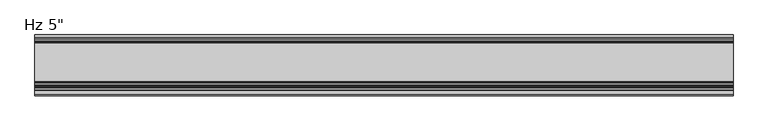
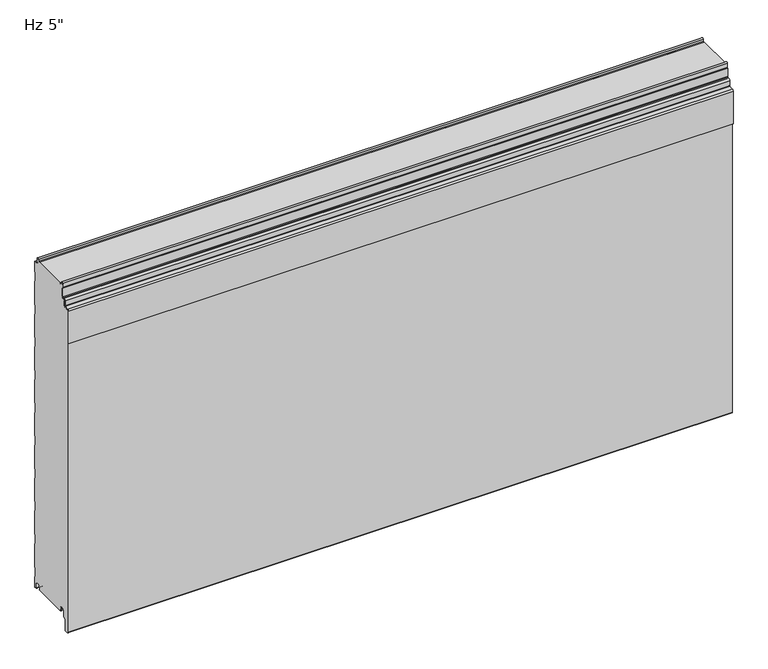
"""IFC4 building model written with IfcOpenShell, lengths in millimetres: plate geometry."""

from ifc_helpers import new_model, si_unit, frame, origin, place, context, project, spatial, polyline, circle_curve, source, transform, mapped, element, save
from ifc_brep_helpers import plane_surface, cylinder_surface, revolved_surface, advanced_brep


def plate_6f7920e9(model_context):
    return source(origin(), model_context, "Body", "AdvancedBrep", [
        advanced_brep(
        [(730.0, -105.9008679, 735.9534183), (730.0, -105.9008679, 754.6986183), (730.0, -107.4248679, 754.6986183), (730.0, -107.4248679, 735.9534183), (730.0, -108.9488679, 734.4294183), (730.0, -112.0476679, 734.4294183), (730.0, -115.5020679, 730.9750183), (730.0, -115.5020679, 719.762461), (730.0, -116.1976552, 719.0033606), (730.0, -125.7416507, 717.808533), (730.0, -128.524, 714.7721316), (730.0, -128.5360323, 639.2048183), (730.0, -127.0, 639.2048183), (730.0, -127.0, 714.7721316), (730.0, -125.6088254, 716.2903323), (730.0, -116.0648299, 717.4851599), (730.0, -113.9780679, 719.762461), (730.0, -113.9780679, 730.9750183), (730.0, -112.0476679, 732.9054183), (730.0, -108.9488679, 732.9054183), (-730.0, -105.9008679, 735.9534183), (-730.0, -108.9488679, 732.9054183), (-730.0, -112.0476679, 732.9054183), (-730.0, -113.9780679, 730.9750183), (-730.0, -113.9780679, 719.762461), (-730.0, -116.0648299, 717.4851599), (-730.0, -125.6088254, 716.2903323), (-730.0, -127.0, 714.7721316), (-730.0, -127.0, 639.2048183), (-730.0, -128.5360323, 639.2048183), (-730.0, -128.5360323, 714.7721316), (-730.0, -125.7416507, 717.808533), (-730.0, -116.1976552, 719.0033606), (-730.0, -115.5020679, 719.762461), (-730.0, -115.5020679, 730.9750183), (-730.0, -112.0476679, 734.4294183), (-730.0, -108.9488679, 734.4294183), (-730.0, -107.4248679, 735.9534183), (-730.0, -107.4248679, 754.6986183), (-730.0, -105.9008679, 754.6986183)],
        [
            (0, 1),
            (1, 2),
            (2, 3),
            (3, 4, circle_curve(frame((730.0, -108.9488679, 735.9534183), z_axis=(-1.0, 0.0, 0.0), x_axis=(0.0, 1.0, 0.0)), 1.524)),
            (4, 5),
            (5, 6, circle_curve(frame((730.0, -112.0476679, 730.9750183), z_axis=(1.0, 0.0, 0.0), x_axis=(0.0, 1.0, 0.0)), 3.4544)),
            (6, 7),
            (7, 8, circle_curve(frame((730.0, -116.2640679, 719.762461), z_axis=(-1.0, 0.0, 0.0), x_axis=(0.0, 1.0, 0.0)), 0.762)),
            (8, 9),
            (9, 10, circle_curve(frame((730.0, -125.476, 714.7721316), z_axis=(1.0, 0.0, 0.0), x_axis=(0.0, 1.0, 0.0)), 3.048)),
            (10, 11),
            (11, 12),
            (12, 13),
            (13, 14, circle_curve(frame((730.0, -125.476, 714.7721316), z_axis=(-1.0, 0.0, 0.0), x_axis=(0.0, 1.0, 0.0)), 1.524)),
            (14, 15),
            (15, 16, circle_curve(frame((730.0, -116.2640679, 719.762461), z_axis=(1.0, 0.0, 0.0), x_axis=(0.0, 1.0, 0.0)), 2.286)),
            (16, 17),
            (17, 18, circle_curve(frame((730.0, -112.0476679, 730.9750183), z_axis=(-1.0, 0.0, 0.0), x_axis=(0.0, 1.0, 0.0)), 1.9304)),
            (18, 19),
            (19, 0, circle_curve(frame((730.0, -108.9488679, 735.9534183), z_axis=(1.0, 0.0, 0.0), x_axis=(0.0, 1.0, 0.0)), 3.048)),
            (20, 21, circle_curve(frame((-730.0, -108.9488679, 735.9534183), z_axis=(-1.0, 0.0, 0.0), x_axis=(0.0, 1.0, 0.0)), 3.048)),
            (21, 22),
            (22, 23, circle_curve(frame((-730.0, -112.0476679, 730.9750183), z_axis=(1.0, 0.0, 0.0), x_axis=(0.0, 1.0, 0.0)), 1.9304)),
            (23, 24),
            (24, 25, circle_curve(frame((-730.0, -116.2640679, 719.762461), z_axis=(-1.0, 0.0, 0.0), x_axis=(0.0, 1.0, 0.0)), 2.286)),
            (25, 26),
            (26, 27, circle_curve(frame((-730.0, -125.476, 714.7721316), z_axis=(1.0, 0.0, 0.0), x_axis=(0.0, 1.0, 0.0)), 1.524)),
            (27, 28),
            (28, 29),
            (29, 30),
            (30, 31, circle_curve(frame((-730.0, -125.476, 714.7721316), z_axis=(-1.0, 0.0, 0.0), x_axis=(0.0, 1.0, 0.0)), 3.048)),
            (31, 32),
            (32, 33, circle_curve(frame((-730.0, -116.2640679, 719.762461), z_axis=(1.0, 0.0, 0.0), x_axis=(0.0, 1.0, 0.0)), 0.762)),
            (33, 34),
            (34, 35, circle_curve(frame((-730.0, -112.0476679, 730.9750183), z_axis=(-1.0, 0.0, 0.0), x_axis=(0.0, 1.0, 0.0)), 3.4544)),
            (35, 36),
            (36, 37, circle_curve(frame((-730.0, -108.9488679, 735.9534183), z_axis=(1.0, 0.0, 0.0), x_axis=(0.0, 1.0, 0.0)), 1.524)),
            (37, 38),
            (38, 39),
            (39, 20),
            (2, 38),
            (37, 3),
            (15, 25),
            (24, 16),
            (7, 33),
            (32, 8),
            (5, 35),
            (34, 6),
            (1, 39),
            (36, 4),
            (9, 31),
            (30, 10),
            (13, 27),
            (26, 14),
            (0, 20),
            (12, 28),
            (29, 11),
            (23, 17),
            (18, 22),
            (21, 19),
        ],
        [
            plane_surface(frame((730.0, -127.0, 754.6986183), z_axis=(1.0, 0.0, 0.0), x_axis=(0.0, 0.0, -1.0))),
            plane_surface(frame((-730.0, -127.0, 754.6986183), z_axis=(-1.0, 0.0, 0.0), x_axis=(0.0, 0.0, -1.0))),
            plane_surface(frame((730.0, -107.4248679, 735.9534183), z_axis=(0.0, -1.0, 0.0), x_axis=(-1.0, 0.0, 0.0))),
            cylinder_surface(frame((730.0, -116.2640679, 719.762461), z_axis=(1.0, 0.0, 0.0), x_axis=(0.0, 1.0, 0.0)), 2.286),
            revolved_surface(polyline([(-730.0, -115.5020679, 719.762461), (730.0, -115.5020679, 719.762461)]), (730.0, -116.2640679, 719.762461), (-1.0, 0.0, 0.0)),
            cylinder_surface(frame((730.0, -112.0476679, 730.9750183), z_axis=(1.0, 0.0, 0.0), x_axis=(0.0, 1.0, 0.0)), 3.4544),
            plane_surface(frame((730.0, -107.4248679, 754.6986183), z_axis=(0.0, 0.0, 1.0), x_axis=(-1.0, 0.0, 0.0))),
            revolved_surface(polyline([(-730.0, -107.4248679, 735.9534183), (730.0, -107.4248679, 735.9534183)]), (730.0, -108.9488679, 735.9534183), (-1.0, 0.0, 0.0)),
            cylinder_surface(frame((730.0, -125.476, 714.7721316), z_axis=(1.0, 0.0, 0.0), x_axis=(0.0, 1.0, 0.0)), 3.048),
            revolved_surface(polyline([(-730.0, -123.952, 714.7721316), (730.0, -123.952, 714.7721316)]), (730.0, -125.476, 714.7721316), (-1.0, 0.0, 0.0)),
            plane_surface(frame((730.0, -105.9008679, 754.6986183), z_axis=(0.0, 1.0, 0.0), x_axis=(-1.0, 0.0, 0.0))),
            plane_surface(frame((730.0, -116.0648299, 717.4851599), z_axis=(0.0, 0.12422187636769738, -0.9922544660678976), x_axis=(-1.0, 0.0, 0.0))),
            plane_surface(frame((730.0, -127.0, 714.7721316), z_axis=(0.0, 1.0, 0.0), x_axis=(-1.0, 0.0, 0.0))),
            plane_surface(frame((730.0, -125.7416507, 717.808533), z_axis=(0.0, -0.12422187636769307, 0.9922544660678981), x_axis=(-1.0, 0.0, 0.0))),
            plane_surface(frame((730.0, -112.0476679, 734.4294183), z_axis=(0.0, 0.0, 1.0), x_axis=(-1.0, 0.0, 0.0))),
            plane_surface(frame((730.0, -128.5360323, 639.2048183), z_axis=(0.0, -1.0, 0.0), x_axis=(-1.0, 0.0, 0.0))),
            plane_surface(frame((730.0, -127.0, 639.2048183), z_axis=(0.0, 0.0, -1.0), x_axis=(-1.0, 0.0, 0.0))),
            plane_surface(frame((730.0, -113.9780679, 730.9750183), z_axis=(0.0, 1.0, 0.0), x_axis=(-1.0, 0.0, 0.0))),
            plane_surface(frame((730.0, -108.9488679, 732.9054183), z_axis=(0.0, 0.0, -1.0), x_axis=(-1.0, 0.0, 0.0))),
            plane_surface(frame((730.0, -115.5020679, 719.762461), z_axis=(0.0, -1.0, 0.0), x_axis=(-1.0, 0.0, 0.0))),
            revolved_surface(polyline([(-730.0, -110.11726789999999, 730.9750183), (730.0, -110.11726789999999, 730.9750183)]), (730.0, -112.0476679, 730.9750183), (-1.0, 0.0, 0.0)),
            cylinder_surface(frame((730.0, -108.9488679, 735.9534183), z_axis=(1.0, 0.0, 0.0), x_axis=(0.0, 1.0, 0.0)), 3.048),
        ],
        [
            (0, [[1, 2, 3, 4, 5, 6, 7, 8, 9, 10, 11, 12, 13, 14, 15, 16, 17, 18, 19, 20]]),
            (1, [[21, 22, 23, 24, 25, 26, 27, 28, 29, 30, 31, 32, 33, 34, 35, 36, 37, 38, 39, 40]]),
            (2, [[41, -38, 42, -3]]),
            (3, [[43, -25, 44, -16]]),
            (4, [[45, -33, 46, -8]]),
            (5, [[47, -35, 48, -6]]),
            (6, [[49, -39, -41, -2]]),
            (7, [[-42, -37, 50, -4]]),
            (8, [[51, -31, 52, -10]]),
            (9, [[53, -27, 54, -14]]),
            (10, [[55, -40, -49, -1]]),
            (11, [[-54, -26, -43, -15]]),
            (12, [[56, -28, -53, -13]]),
            (13, [[-46, -32, -51, -9]]),
            (14, [[-50, -36, -47, -5]]),
            (15, [[-52, -30, 57, -11]]),
            (16, [[-57, -29, -56, -12]]),
            (17, [[-44, -24, 58, -17]]),
            (18, [[59, -22, 60, -19]]),
            (19, [[-48, -34, -45, -7]]),
            (20, [[-58, -23, -59, -18]]),
            (21, [[-60, -21, -55, -20]]),
        ],
    ),
        advanced_brep(
        [(-730.0, -98.670875, 1.0316999), (-730.0, -97.5014003, 2.2328239), (-730.0, -97.5014003, 5.9912173), (-730.0, -98.8998791, 5.9912173), (-730.0, -98.8998791, 8.6903283), (-730.0, -102.2498744, 12.0403236), (-730.0, -106.6498656, 12.0403236), (-730.0, -109.9998609, 8.6903283), (-730.0, -109.9998609, -3.1205608), (-730.0, -110.4977778, -4.3226385), (-730.0, -115.9998489, -9.8247096), (-730.0, -115.9998489, -31.9198392), (-730.0, -118.2184509, -34.5765709), (-730.0, -123.2002718, -35.0125699), (-730.0, -125.9945967, -32.4521176), (-730.0, -126.0, 713.515622), (-730.0, -124.2149259, 715.4669057), (-730.0, -115.7539491, 716.221161), (-730.0, -112.9906462, 719.3653654), (-730.0, -112.9906462, 729.4583308), (-730.0, -112.0392375, 730.4097394), (-730.0, -108.8955822, 730.4097394), (-730.0, -104.8961292, 734.4091924), (-730.0, -104.8961292, 755.5895515), (-730.0, -106.876977, 756.7334028), (-730.0, -106.5217167, 765.706811), (-730.0, -102.3211391, 765.7037148), (-730.0, -102.0767242, 761.6977997), (-730.0, -100.2819116, 759.9686884), (-730.0, -97.497365, 759.9686884), (-730.0, -97.497365, 760.9686884), (-730.0, -99.084865, 760.9686884), (-730.0, -98.0535534, 762.0), (-730.0, -18.6184525, 762.0), (-730.0, -17.5871409, 760.9686884), (-730.0, -19.0015288, 760.9686884), (-730.0, -19.0015288, 759.9686884), (-730.0, -16.6743462, 759.9686884), (-730.0, -14.9256429, 761.6513685), (-730.0, -14.7059822, 765.7921924), (-730.0, -10.4046442, 765.7931719), (-730.0, -9.9974365, 757.3016499), (-730.0, -6.0026007, 753.4787013), (-730.0, -1.0, 753.4787013), (-730.0, -1.0, 728.9790963), (-730.0, -2.2002307, 727.5934634), (-730.0, -2.2002307, 708.2182971), (-730.0, -1.0, 706.8326641), (-730.0, -1.0, 652.7792487), (-730.0, -2.2002307, 651.3936158), (-730.0, -2.2002307, 632.0184495), (-730.0, -1.0, 630.6328165), (-730.0, -1.0, 576.5794011), (-730.0, -2.2002307, 575.1937682), (-730.0, -2.2002307, 555.8186019), (-730.0, -1.0, 554.4329689), (-730.0, -1.0, 500.3795535), (-730.0, -2.2002307, 498.9939206), (-730.0, -2.2002307, 479.6187543), (-730.0, -1.0, 478.2331213), (-730.0, -1.0, 424.1797059), (-730.0, -2.2002307, 422.794073), (-730.0, -2.2002307, 403.4189067), (-730.0, -1.0, 402.0332737), (-730.0, -1.0, 347.9798583), (-730.0, -2.2002307, 346.5942254), (-730.0, -2.2002307, 327.2190591), (-730.0, -1.0, 325.8334261), (-730.0, -1.0, 271.7800107), (-730.0, -2.2002307, 270.3943778), (-730.0, -2.2002307, 251.0192115), (-730.0, -1.0, 249.6335785), (-730.0, -1.0, 195.5801631), (-730.0, -2.2002307, 194.1945302), (-730.0, -2.2002307, 174.8193639), (-730.0, -1.0, 173.4337309), (-730.0, -1.0, 119.3803155), (-730.0, -2.2002307, 117.9946826), (-730.0, -2.2002307, 98.6195163), (-730.0, -1.0, 97.2338833), (-730.0, -1.0, 43.1804679), (-730.0, -2.2002307, 41.794835), (-730.0, -2.2002307, 22.4196687), (-730.0, -0.9999916, 21.034026), (-730.0, -0.9999916, -3.4662506), (-730.0, -5.2315389, -3.4662506), (-730.0, -7.0015331, -1.6962564), (-730.0, -7.0015331, 8.7237222), (-730.0, -10.301529, 12.023718), (-730.0, -14.7015202, 12.023718), (-730.0, -18.0015159, 8.7237223), (-730.0, -18.0015159, 6.0315125), (-730.0, -19.0015105, 6.0315125), (-730.0, -19.0015105, 2.0313089), (-730.0, -18.0015192, 1.0313117), (-730.0, -19.0328308, 0.0), (-730.0, -97.6391751, 0.0), (730.0, -98.670875, 1.0316999), (730.0, -97.6391751, 0.0), (730.0, -19.0328308, 0.0), (730.0, -18.0015192, 1.0313117), (730.0, -19.0015105, 2.0313089), (730.0, -19.0015105, 6.0315125), (730.0, -18.0015159, 6.0315125), (730.0, -18.0015159, 8.7237223), (730.0, -14.7015202, 12.023718), (730.0, -10.301529, 12.023718), (730.0, -7.0015331, 8.7237222), (730.0, -7.0015331, -1.6962564), (730.0, -5.2315389, -3.4662506), (730.0, -0.9999916, -3.4662506), (730.0, -0.9999916, 21.034026), (730.0, -2.2002307, 22.4196687), (730.0, -2.2002307, 41.794835), (730.0, -1.0, 43.1804679), (730.0, -1.0, 97.2338833), (730.0, -2.2002307, 98.6195163), (730.0, -2.2002307, 117.9946826), (730.0, -1.0, 119.3803155), (730.0, -1.0, 173.4337309), (730.0, -2.2002307, 174.8193639), (730.0, -2.2002307, 194.1945302), (730.0, -1.0, 195.5801631), (730.0, -1.0, 249.6335785), (730.0, -2.2002307, 251.0192115), (730.0, -2.2002307, 270.3943778), (730.0, -1.0, 271.7800107), (730.0, -1.0, 325.8334261), (730.0, -2.2002307, 327.2190591), (730.0, -2.2002307, 346.5942254), (730.0, -1.0, 347.9798583), (730.0, -1.0, 402.0332737), (730.0, -2.2002307, 403.4189067), (730.0, -2.2002307, 422.794073), (730.0, -1.0, 424.1797059), (730.0, -1.0, 478.2331213), (730.0, -2.2002307, 479.6187543), (730.0, -2.2002307, 498.9939206), (730.0, -1.0, 500.3795535), (730.0, -1.0, 554.4329689), (730.0, -2.2002307, 555.8186019), (730.0, -2.2002307, 575.1937682), (730.0, -1.0, 576.5794011), (730.0, -1.0, 630.6328165), (730.0, -2.2002307, 632.0184495), (730.0, -2.2002307, 651.3936158), (730.0, -1.0, 652.7792487), (730.0, -1.0, 706.8326641), (730.0, -2.2002307, 708.2182971), (730.0, -2.2002307, 727.5934634), (730.0, -1.0, 728.9790963), (730.0, -1.0, 753.4787013), (730.0, -6.0026007, 753.4787013), (730.0, -9.9974365, 757.3016499), (730.0, -10.4046442, 765.7931719), (730.0, -14.7059822, 765.7921924), (730.0, -14.9256429, 761.6513685), (730.0, -16.6743462, 759.9686884), (730.0, -19.0015288, 759.9686884), (730.0, -19.0015288, 760.9686884), (730.0, -17.5871409, 760.9686884), (730.0, -18.6184525, 762.0), (730.0, -98.0535534, 762.0), (730.0, -99.084865, 760.9686884), (730.0, -97.497365, 760.9686884), (730.0, -97.497365, 759.9686884), (730.0, -100.2819116, 759.9686884), (730.0, -102.0767242, 761.6977997), (730.0, -102.3211391, 765.7037148), (730.0, -106.5217167, 765.706811), (730.0, -106.876977, 756.7334028), (730.0, -104.8961292, 755.5895515), (730.0, -104.8961292, 734.4091924), (730.0, -108.8955822, 730.4097394), (730.0, -112.0392375, 730.4097394), (730.0, -112.9906462, 729.4583308), (730.0, -112.9906462, 719.3653654), (730.0, -115.7539491, 716.221161), (730.0, -124.2149259, 715.4669057), (730.0, -126.0, 713.515622), (730.0, -126.0, -32.4521176), (730.0, -123.2002718, -35.0125699), (730.0, -118.2184509, -34.5765709), (730.0, -115.9998489, -31.9198392), (730.0, -115.9998489, -9.8247096), (730.0, -110.4977778, -4.3226385), (730.0, -109.9998609, -3.1205608), (730.0, -109.9998609, 8.6903283), (730.0, -106.6498656, 12.0403236), (730.0, -102.2498744, 12.0403236), (730.0, -98.8998791, 8.6903283), (730.0, -98.8998791, 5.9912173), (730.0, -97.5014003, 5.9912173), (730.0, -97.5014003, 2.2328239)],
        [
            (0, 1, circle_curve(frame((-730.0, -98.7013969, 2.2313092), z_axis=(1.0, 0.0, 0.0), x_axis=(0.0, 0.0, -1.0)), 1.1999976)),
            (1, 2),
            (2, 3),
            (3, 4),
            (4, 5, circle_curve(frame((-730.0, -102.2498744, 8.6903283), z_axis=(1.0, 0.0, 0.0), x_axis=(0.0, 0.0, -1.0)), 3.3499953)),
            (5, 6),
            (6, 7, circle_curve(frame((-730.0, -106.6498656, 8.6903283), z_axis=(1.0, 0.0, 0.0), x_axis=(0.0, 0.0, -1.0)), 3.3499953)),
            (7, 8),
            (8, 9, circle_curve(frame((-730.0, -111.6998555, -3.1205608), z_axis=(-1.0, 0.0, 0.0), x_axis=(0.0, 0.0, -1.0)), 1.6999946)),
            (9, 10),
            (10, 11),
            (11, 12, circle_curve(frame((-730.0, -118.6998415, -31.9198392), z_axis=(-1.0, 0.0, 0.0), x_axis=(0.0, 0.0, -1.0)), 2.6999926)),
            (12, 13),
            (13, 14, circle_curve(frame((-730.0, -123.4243575, -32.4521176), z_axis=(-1.0, 0.0, 0.0), x_axis=(0.0, 0.0, -1.0)), 2.5702393)),
            (14, 15),
            (15, 16, circle_curve(frame((-730.0, -124.0409784, 713.515622), z_axis=(-1.0, 0.0, 0.0), x_axis=(0.0, 0.0, -1.0)), 1.9590216)),
            (16, 17),
            (17, 18, circle_curve(frame((-730.0, -116.0180321, 719.2396267), z_axis=(1.0, 0.0, 0.0), x_axis=(0.0, 0.0, -1.0)), 3.0299959)),
            (18, 19),
            (19, 20, circle_curve(frame((-730.0, -112.0392375, 729.4583308), z_axis=(-1.0, 0.0, 0.0), x_axis=(0.0, 0.0, -1.0)), 0.9514087)),
            (20, 21),
            (21, 22, circle_curve(frame((-730.0, -108.8955822, 734.4091924), z_axis=(1.0, 0.0, 0.0), x_axis=(0.0, 0.0, -1.0)), 3.9994529)),
            (22, 23),
            (23, 24),
            (24, 25),
            (25, 26, circle_curve(frame((-730.0, -104.421488, 765.6236622), z_axis=(-1.0, 0.0, 0.0), x_axis=(0.0, 0.0, -1.0)), 2.1018739)),
            (26, 27),
            (27, 28, circle_curve(frame((-730.0, -100.2383506, 761.8099653), z_axis=(1.0, 0.0, 0.0), x_axis=(0.0, 0.0, -1.0)), 1.8417922)),
            (28, 29),
            (29, 30),
            (30, 31),
            (31, 32),
            (32, 33),
            (33, 34),
            (34, 35),
            (35, 36),
            (36, 37),
            (37, 38, circle_curve(frame((-730.0, -16.6743462, 761.7186869), z_axis=(1.0, 0.0, 0.0), x_axis=(0.0, 0.0, 1.0)), 1.7499985)),
            (38, 39),
            (39, 40, circle_curve(frame((-730.0, -12.5552871, 765.6781032), z_axis=(-1.0, 0.0, 0.0), x_axis=(0.0, 0.0, 1.0)), 2.153719)),
            (40, 41),
            (41, 42, circle_curve(frame((-730.0, -5.9867338, 757.4939817), z_axis=(1.0, 0.0, 0.0), x_axis=(0.0, 0.0, 1.0)), 4.0153117)),
            (42, 43),
            (43, 44),
            (44, 45),
            (45, 46),
            (46, 47),
            (47, 48),
            (48, 49),
            (49, 50),
            (50, 51),
            (51, 52),
            (52, 53),
            (53, 54),
            (54, 55),
            (55, 56),
            (56, 57),
            (57, 58),
            (58, 59),
            (59, 60),
            (60, 61),
            (61, 62),
            (62, 63),
            (63, 64),
            (64, 65),
            (65, 66),
            (66, 67),
            (67, 68),
            (68, 69),
            (69, 70),
            (70, 71),
            (71, 72),
            (72, 73),
            (73, 74),
            (74, 75),
            (75, 76),
            (76, 77),
            (77, 78),
            (78, 79),
            (79, 80),
            (80, 81),
            (81, 82),
            (82, 83),
            (83, 84),
            (84, 85),
            (85, 86, circle_curve(frame((-730.0, -5.2315389, -1.6962564), z_axis=(-1.0, 0.0, 0.0), x_axis=(0.0, 0.0, 1.0)), 1.7699942)),
            (86, 87),
            (87, 88, circle_curve(frame((-730.0, -10.301529, 8.7237222), z_axis=(1.0, 0.0, 0.0), x_axis=(0.0, 0.0, 1.0)), 3.2999959)),
            (88, 89),
            (89, 90, circle_curve(frame((-730.0, -14.7015202, 8.7237223), z_axis=(1.0, 0.0, 0.0), x_axis=(0.0, 0.0, 1.0)), 3.2999957)),
            (90, 91),
            (91, 92),
            (92, 93),
            (93, 94, circle_curve(frame((-730.0, -18.0015133, 2.0313089), z_axis=(1.0, 0.0, 0.0), x_axis=(0.0, 0.0, 1.0)), 0.9999972)),
            (94, 95),
            (95, 96),
            (96, 0),
            (97, 98),
            (98, 99),
            (99, 100),
            (100, 101, circle_curve(frame((730.0, -18.0015133, 2.0313089), z_axis=(-1.0, 0.0, 0.0), x_axis=(0.0, 0.0, 1.0)), 0.9999972)),
            (101, 102),
            (102, 103),
            (103, 104),
            (104, 105, circle_curve(frame((730.0, -14.7015202, 8.7237223), z_axis=(-1.0, 0.0, 0.0), x_axis=(0.0, 0.0, 1.0)), 3.2999957)),
            (105, 106),
            (106, 107, circle_curve(frame((730.0, -10.301529, 8.7237222), z_axis=(-1.0, 0.0, 0.0), x_axis=(0.0, 0.0, 1.0)), 3.2999959)),
            (107, 108),
            (108, 109, circle_curve(frame((730.0, -5.2315389, -1.6962564), z_axis=(1.0, 0.0, 0.0), x_axis=(0.0, 0.0, 1.0)), 1.7699942)),
            (109, 110),
            (110, 111),
            (111, 112),
            (112, 113),
            (113, 114),
            (114, 115),
            (115, 116),
            (116, 117),
            (117, 118),
            (118, 119),
            (119, 120),
            (120, 121),
            (121, 122),
            (122, 123),
            (123, 124),
            (124, 125),
            (125, 126),
            (126, 127),
            (127, 128),
            (128, 129),
            (129, 130),
            (130, 131),
            (131, 132),
            (132, 133),
            (133, 134),
            (134, 135),
            (135, 136),
            (136, 137),
            (137, 138),
            (138, 139),
            (139, 140),
            (140, 141),
            (141, 142),
            (142, 143),
            (143, 144),
            (144, 145),
            (145, 146),
            (146, 147),
            (147, 148),
            (148, 149),
            (149, 150),
            (150, 151),
            (151, 152),
            (152, 153, circle_curve(frame((730.0, -5.9867338, 757.4939817), z_axis=(-1.0, 0.0, 0.0), x_axis=(0.0, 0.0, 1.0)), 4.0153117)),
            (153, 154),
            (154, 155, circle_curve(frame((730.0, -12.5552871, 765.6781032), z_axis=(1.0, 0.0, 0.0), x_axis=(0.0, 0.0, 1.0)), 2.153719)),
            (155, 156),
            (156, 157, circle_curve(frame((730.0, -16.6743462, 761.7186869), z_axis=(-1.0, 0.0, 0.0), x_axis=(0.0, 0.0, 1.0)), 1.7499985)),
            (157, 158),
            (158, 159),
            (159, 160),
            (160, 161),
            (161, 162),
            (162, 163),
            (163, 164),
            (164, 165),
            (165, 166),
            (166, 167, circle_curve(frame((730.0, -100.2383506, 761.8099653), z_axis=(-1.0, 0.0, 0.0), x_axis=(0.0, 0.0, -1.0)), 1.8417922)),
            (167, 168),
            (168, 169, circle_curve(frame((730.0, -104.421488, 765.6236622), z_axis=(1.0, 0.0, 0.0), x_axis=(0.0, 0.0, -1.0)), 2.1018739)),
            (169, 170),
            (170, 171),
            (171, 172),
            (172, 173, circle_curve(frame((730.0, -108.8955822, 734.4091924), z_axis=(-1.0, 0.0, 0.0), x_axis=(0.0, 0.0, -1.0)), 3.9994529)),
            (173, 174),
            (174, 175, circle_curve(frame((730.0, -112.0392375, 729.4583308), z_axis=(1.0, 0.0, 0.0), x_axis=(0.0, 0.0, -1.0)), 0.9514087)),
            (175, 176),
            (176, 177, circle_curve(frame((730.0, -116.0180321, 719.2396267), z_axis=(-1.0, 0.0, 0.0), x_axis=(0.0, 0.0, -1.0)), 3.0299959)),
            (177, 178),
            (178, 179, circle_curve(frame((730.0, -124.0409784, 713.515622), z_axis=(1.0, 0.0, 0.0), x_axis=(0.0, 0.0, -1.0)), 1.9590216)),
            (179, 180),
            (180, 181, circle_curve(frame((730.0, -123.4243575, -32.4521176), z_axis=(1.0, 0.0, 0.0), x_axis=(0.0, 0.0, -1.0)), 2.5702393)),
            (181, 182),
            (182, 183, circle_curve(frame((730.0, -118.6998415, -31.9198392), z_axis=(1.0, 0.0, 0.0), x_axis=(0.0, 0.0, -1.0)), 2.6999926)),
            (183, 184),
            (184, 185),
            (185, 186, circle_curve(frame((730.0, -111.6998555, -3.1205608), z_axis=(1.0, 0.0, 0.0), x_axis=(0.0, 0.0, -1.0)), 1.6999946)),
            (186, 187),
            (187, 188, circle_curve(frame((730.0, -106.6498656, 8.6903283), z_axis=(-1.0, 0.0, 0.0), x_axis=(0.0, 0.0, -1.0)), 3.3499953)),
            (188, 189),
            (189, 190, circle_curve(frame((730.0, -102.2498744, 8.6903283), z_axis=(-1.0, 0.0, 0.0), x_axis=(0.0, 0.0, -1.0)), 3.3499953)),
            (190, 191),
            (191, 192),
            (192, 193),
            (193, 97, circle_curve(frame((730.0, -98.7013969, 2.2313092), z_axis=(-1.0, 0.0, 0.0), x_axis=(0.0, 0.0, -1.0)), 1.1999976)),
            (96, 98),
            (97, 0),
            (95, 99),
            (32, 162),
            (161, 33),
            (31, 163),
            (30, 164),
            (29, 165),
            (28, 166),
            (27, 167),
            (26, 168),
            (25, 169),
            (24, 170),
            (23, 171),
            (22, 172),
            (21, 173),
            (20, 174),
            (19, 175),
            (18, 176),
            (17, 177),
            (16, 178),
            (15, 179),
            (14, 180),
            (13, 181),
            (12, 182),
            (11, 183),
            (10, 184),
            (9, 185),
            (8, 186),
            (7, 187),
            (6, 188),
            (5, 189),
            (4, 190),
            (3, 191),
            (2, 192),
            (1, 193),
            (94, 100),
            (93, 101),
            (92, 102),
            (91, 103),
            (90, 104),
            (89, 105),
            (88, 106),
            (87, 107),
            (86, 108),
            (85, 109),
            (84, 110),
            (83, 111),
            (82, 112),
            (81, 113),
            (80, 114),
            (79, 115),
            (78, 116),
            (77, 117),
            (76, 118),
            (75, 119),
            (74, 120),
            (73, 121),
            (72, 122),
            (71, 123),
            (70, 124),
            (69, 125),
            (68, 126),
            (67, 127),
            (66, 128),
            (65, 129),
            (64, 130),
            (63, 131),
            (62, 132),
            (61, 133),
            (60, 134),
            (59, 135),
            (58, 136),
            (57, 137),
            (56, 138),
            (55, 139),
            (54, 140),
            (53, 141),
            (52, 142),
            (51, 143),
            (50, 144),
            (49, 145),
            (48, 146),
            (47, 147),
            (46, 148),
            (45, 149),
            (44, 150),
            (43, 151),
            (42, 152),
            (41, 153),
            (40, 154),
            (39, 155),
            (38, 156),
            (37, 157),
            (36, 158),
            (35, 159),
            (34, 160),
        ],
        [
            plane_surface(frame((-730.0, -126.0, 381.0), z_axis=(-1.0, 0.0, 0.0), x_axis=(0.0, -1.0, 0.0))),
            plane_surface(frame((730.0, -126.0, 381.0), z_axis=(1.0, 0.0, 0.0), x_axis=(0.0, -1.0, 0.0))),
            plane_surface(frame((-730.0, -98.670875, 1.0316999), z_axis=(0.0, -0.7071067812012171, -0.707106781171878), x_axis=(1.0, 0.0, 0.0))),
            plane_surface(frame((-730.0, -97.6391751, 0.0), z_axis=(0.0, 0.0, -1.0), x_axis=(1.0, 0.0, 0.0))),
            plane_surface(frame((-730.0, -96.6391751, 762.0), z_axis=(0.0, 0.0, 1.0), x_axis=(1.0, 0.0, 0.0))),
            plane_surface(frame((-730.0, -98.0535534, 762.0), z_axis=(0.0, -0.7071067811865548, 0.7071067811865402), x_axis=(1.0, 0.0, 0.0))),
            plane_surface(frame((-730.0, -99.084865, 760.9686884), z_axis=(0.0, 0.0, -1.0), x_axis=(1.0, 0.0, 0.0))),
            plane_surface(frame((-730.0, -97.497365, 760.9686884), z_axis=(0.0, -1.0, 0.0), x_axis=(1.0, 0.0, 0.0))),
            plane_surface(frame((-730.0, -97.497365, 759.9686884), z_axis=(0.0, 0.0, 1.0), x_axis=(1.0, 0.0, 0.0))),
            revolved_surface(polyline([(730.0, -100.2383506, 759.9681731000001), (-730.0, -100.2383506, 759.9681731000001)]), (-730.0, -100.2383506, 761.8099653), (1.0, 0.0, 0.0)),
            plane_surface(frame((-730.0, -102.0767242, 761.6977997), z_axis=(0.0, 0.9981438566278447, 0.06090025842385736), x_axis=(1.0, 0.0, 0.0))),
            cylinder_surface(frame((-730.0, -104.421488, 765.6236622), z_axis=(-1.0, 0.0, 0.0), x_axis=(0.0, 0.0, -1.0)), 2.1018739),
            plane_surface(frame((-730.0, -106.5217167, 765.706811), z_axis=(0.0, -0.9992172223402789, 0.03955935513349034), x_axis=(1.0, 0.0, 0.0))),
            plane_surface(frame((-730.0, -106.876977, 756.7334028), z_axis=(0.0, -0.5000682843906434, -0.865985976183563), x_axis=(1.0, 0.0, 0.0))),
            plane_surface(frame((-730.0, -104.8961292, 755.5895515), z_axis=(0.0, -1.0, 0.0), x_axis=(1.0, 0.0, 0.0))),
            revolved_surface(polyline([(730.0, -108.8955822, 730.4097395), (-730.0, -108.8955822, 730.4097395)]), (-730.0, -108.8955822, 734.4091924), (1.0, 0.0, 0.0)),
            plane_surface(frame((-730.0, -108.8955822, 730.4097394), z_axis=(0.0, 0.0, 1.0), x_axis=(1.0, 0.0, 0.0))),
            cylinder_surface(frame((-730.0, -112.0392375, 729.4583308), z_axis=(-1.0, 0.0, 0.0), x_axis=(0.0, 0.0, -1.0)), 0.9514087),
            plane_surface(frame((-730.0, -112.9906462, 729.4583308), z_axis=(0.0, -1.0, 0.0), x_axis=(1.0, 0.0, 0.0))),
            revolved_surface(polyline([(730.0, -116.0180321, 716.2096308), (-730.0, -116.0180321, 716.2096308)]), (-730.0, -116.0180321, 719.2396267), (1.0, 0.0, 0.0)),
            plane_surface(frame((-730.0, -115.7539491, 716.221161), z_axis=(0.0, -0.08879306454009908, 0.9960500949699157), x_axis=(1.0, 0.0, 0.0))),
            cylinder_surface(frame((-730.0, -124.0409784, 713.515622), z_axis=(-1.0, 0.0, 0.0), x_axis=(0.0, 0.0, -1.0)), 1.9590216),
            plane_surface(frame((-730.0, -126.0, 713.515622), z_axis=(0.0, -1.0, 0.0), x_axis=(1.0, 0.0, 0.0))),
            cylinder_surface(frame((-730.0, -123.4243575, -32.4521176), z_axis=(-1.0, 0.0, 0.0), x_axis=(0.0, 0.0, -1.0)), 2.5702393),
            plane_surface(frame((-730.0, -123.2002718, -35.0125699), z_axis=(0.0, 0.08718474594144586, -0.9961921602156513), x_axis=(1.0, 0.0, 0.0))),
            cylinder_surface(frame((-730.0, -118.6998415, -31.9198392), z_axis=(-1.0, 0.0, 0.0), x_axis=(0.0, 0.0, -1.0)), 2.6999926),
            plane_surface(frame((-730.0, -115.9998489, -31.9198392), z_axis=(0.0, 1.0, 0.0), x_axis=(1.0, 0.0, 0.0))),
            plane_surface(frame((-730.0, -115.9998489, -9.8247096), z_axis=(0.0, 0.7071067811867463, -0.7071067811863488), x_axis=(1.0, 0.0, 0.0))),
            cylinder_surface(frame((-730.0, -111.6998555, -3.1205608), z_axis=(-1.0, 0.0, 0.0), x_axis=(0.0, 0.0, -1.0)), 1.6999946),
            plane_surface(frame((-730.0, -109.9998609, -3.1205608), z_axis=(0.0, 1.0, 0.0), x_axis=(1.0, 0.0, 0.0))),
            revolved_surface(polyline([(730.0, -106.6498656, 5.340332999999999), (-730.0, -106.6498656, 5.340332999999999)]), (-730.0, -106.6498656, 8.6903283), (1.0, 0.0, 0.0)),
            plane_surface(frame((-730.0, -106.6498656, 12.0403236), z_axis=(0.0, 0.0, -1.0), x_axis=(1.0, 0.0, 0.0))),
            revolved_surface(polyline([(730.0, -102.2498744, 5.340332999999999), (-730.0, -102.2498744, 5.340332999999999)]), (-730.0, -102.2498744, 8.6903283), (1.0, 0.0, 0.0)),
            plane_surface(frame((-730.0, -98.8998791, 8.6903283), z_axis=(0.0, -1.0, 0.0), x_axis=(1.0, 0.0, 0.0))),
            plane_surface(frame((-730.0, -98.8998791, 5.9912173), z_axis=(0.0, 0.0, -1.0), x_axis=(1.0, 0.0, 0.0))),
            plane_surface(frame((-730.0, -97.5014003, 5.9912173), z_axis=(0.0, -1.0, 0.0), x_axis=(1.0, 0.0, 0.0))),
            revolved_surface(polyline([(730.0, -98.7013969, 1.0313116), (-730.0, -98.7013969, 1.0313116)]), (-730.0, -98.7013969, 2.2313092), (1.0, 0.0, 0.0)),
            plane_surface(frame((-730.0, -19.0328308, 0.0), z_axis=(0.0, 0.7071067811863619, -0.7071067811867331), x_axis=(1.0, 0.0, 0.0))),
            revolved_surface(polyline([(730.0, -18.0015133, 3.0313061), (-730.0, -18.0015133, 3.0313061)]), (-730.0, -18.0015133, 2.0313089), (1.0, 0.0, 0.0)),
            plane_surface(frame((-730.0, -19.0015105, 2.0313089), z_axis=(0.0, 1.0, 0.0), x_axis=(1.0, 0.0, 0.0))),
            plane_surface(frame((-730.0, -19.0015105, 6.0315125), z_axis=(0.0, 0.0, -1.0), x_axis=(1.0, 0.0, 0.0))),
            plane_surface(frame((-730.0, -18.0015159, 6.0315125), z_axis=(0.0, 1.0, 0.0), x_axis=(1.0, 0.0, 0.0))),
            revolved_surface(polyline([(730.0, -14.7015202, 12.023718), (-730.0, -14.7015202, 12.023718)]), (-730.0, -14.7015202, 8.7237223), (1.0, 0.0, 0.0)),
            plane_surface(frame((-730.0, -14.7015202, 12.023718), z_axis=(0.0, 0.0, -1.0), x_axis=(1.0, 0.0, 0.0))),
            revolved_surface(polyline([(730.0, -10.301529, 12.0237181), (-730.0, -10.301529, 12.0237181)]), (-730.0, -10.301529, 8.7237222), (1.0, 0.0, 0.0)),
            plane_surface(frame((-730.0, -7.0015331, 8.7237222), z_axis=(0.0, -1.0, 0.0), x_axis=(1.0, 0.0, 0.0))),
            cylinder_surface(frame((-730.0, -5.2315389, -1.6962564), z_axis=(-1.0, 0.0, 0.0), x_axis=(0.0, 0.0, 1.0)), 1.7699942),
            plane_surface(frame((-730.0, -5.2315389, -3.4662506), z_axis=(0.0, 0.0, -1.0), x_axis=(1.0, 0.0, 0.0))),
            plane_surface(frame((-730.0, -0.9999916, -3.4662506), z_axis=(0.0, 1.0, 0.0), x_axis=(1.0, 0.0, 0.0))),
            plane_surface(frame((-730.0, -0.9999916, 21.034026), z_axis=(0.0, 0.7558648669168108, 0.6547276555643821), x_axis=(1.0, 0.0, 0.0))),
            plane_surface(frame((-730.0, -2.2002307, 22.4196687), z_axis=(0.0, 1.0, 0.0), x_axis=(1.0, 0.0, 0.0))),
            plane_surface(frame((-730.0, -2.2002307, 41.794835), z_axis=(0.0, 0.7558648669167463, -0.6547276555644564), x_axis=(1.0, 0.0, 0.0))),
            plane_surface(frame((-730.0, -1.0, 43.1804679), z_axis=(0.0, 1.0, 0.0), x_axis=(1.0, 0.0, 0.0))),
            plane_surface(frame((-730.0, -1.0, 97.2338833), z_axis=(0.0, 0.7558648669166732, 0.6547276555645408), x_axis=(1.0, 0.0, 0.0))),
            plane_surface(frame((-730.0, -2.2002307, 98.6195163), z_axis=(0.0, 1.0, 0.0), x_axis=(1.0, 0.0, 0.0))),
            plane_surface(frame((-730.0, -2.2002307, 117.9946826), z_axis=(0.0, 0.7558648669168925, -0.6547276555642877), x_axis=(1.0, 0.0, 0.0))),
            plane_surface(frame((-730.0, -1.0, 119.3803155), z_axis=(0.0, 1.0, 0.0), x_axis=(1.0, 0.0, 0.0))),
            plane_surface(frame((-730.0, -1.0, 173.4337309), z_axis=(0.0, 0.7558648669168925, 0.6547276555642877), x_axis=(1.0, 0.0, 0.0))),
            plane_surface(frame((-730.0, -2.2002307, 174.8193639), z_axis=(0.0, 1.0, 0.0), x_axis=(1.0, 0.0, 0.0))),
            plane_surface(frame((-730.0, -2.2002307, 194.1945302), z_axis=(0.0, 0.7558648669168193, -0.6547276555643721), x_axis=(1.0, 0.0, 0.0))),
            plane_surface(frame((-730.0, -1.0, 195.5801631), z_axis=(0.0, 1.0, 0.0), x_axis=(1.0, 0.0, 0.0))),
            plane_surface(frame((-730.0, -1.0, 249.6335785), z_axis=(0.0, 0.7558648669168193, 0.6547276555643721), x_axis=(1.0, 0.0, 0.0))),
            plane_surface(frame((-730.0, -2.2002307, 251.0192115), z_axis=(0.0, 1.0, 0.0), x_axis=(1.0, 0.0, 0.0))),
            plane_surface(frame((-730.0, -2.2002307, 270.3943778), z_axis=(0.0, 0.7558648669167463, -0.6547276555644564), x_axis=(1.0, 0.0, 0.0))),
            plane_surface(frame((-730.0, -1.0, 271.7800107), z_axis=(0.0, 1.0, 0.0), x_axis=(1.0, 0.0, 0.0))),
            plane_surface(frame((-730.0, -1.0, 325.8334261), z_axis=(0.0, 0.7558648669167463, 0.6547276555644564), x_axis=(1.0, 0.0, 0.0))),
            plane_surface(frame((-730.0, -2.2002307, 327.2190591), z_axis=(0.0, 1.0, 0.0), x_axis=(1.0, 0.0, 0.0))),
            plane_surface(frame((-730.0, -2.2002307, 346.5942254), z_axis=(0.0, 0.7558648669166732, -0.6547276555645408), x_axis=(1.0, 0.0, 0.0))),
            plane_surface(frame((-730.0, -1.0, 347.9798583), z_axis=(0.0, 1.0, 0.0), x_axis=(1.0, 0.0, 0.0))),
            plane_surface(frame((-730.0, -1.0, 402.0332737), z_axis=(0.0, 0.7558648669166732, 0.6547276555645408), x_axis=(1.0, 0.0, 0.0))),
            plane_surface(frame((-730.0, -2.2002307, 403.4189067), z_axis=(0.0, 1.0, 0.0), x_axis=(1.0, 0.0, 0.0))),
            plane_surface(frame((-730.0, -2.2002307, 422.794073), z_axis=(0.0, 0.755864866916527, -0.6547276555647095), x_axis=(1.0, 0.0, 0.0))),
            plane_surface(frame((-730.0, -1.0, 424.1797059), z_axis=(0.0, 1.0, 0.0), x_axis=(1.0, 0.0, 0.0))),
            plane_surface(frame((-730.0, -1.0, 478.2331213), z_axis=(0.0, 0.755864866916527, 0.6547276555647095), x_axis=(1.0, 0.0, 0.0))),
            plane_surface(frame((-730.0, -2.2002307, 479.6187543), z_axis=(0.0, 1.0, 0.0), x_axis=(1.0, 0.0, 0.0))),
            plane_surface(frame((-730.0, -2.2002307, 498.9939206), z_axis=(0.0, 0.755864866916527, -0.6547276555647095), x_axis=(1.0, 0.0, 0.0))),
            plane_surface(frame((-730.0, -1.0, 500.3795535), z_axis=(0.0, 1.0, 0.0), x_axis=(1.0, 0.0, 0.0))),
            plane_surface(frame((-730.0, -1.0, 554.4329689), z_axis=(0.0, 0.755864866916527, 0.6547276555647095), x_axis=(1.0, 0.0, 0.0))),
            plane_surface(frame((-730.0, -2.2002307, 555.8186019), z_axis=(0.0, 1.0, 0.0), x_axis=(1.0, 0.0, 0.0))),
            plane_surface(frame((-730.0, -2.2002307, 575.1937682), z_axis=(0.0, 0.7558648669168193, -0.6547276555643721), x_axis=(1.0, 0.0, 0.0))),
            plane_surface(frame((-730.0, -1.0, 576.5794011), z_axis=(0.0, 1.0, 0.0), x_axis=(1.0, 0.0, 0.0))),
            plane_surface(frame((-730.0, -1.0, 630.6328165), z_axis=(0.0, 0.7558648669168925, 0.6547276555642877), x_axis=(1.0, 0.0, 0.0))),
            plane_surface(frame((-730.0, -2.2002307, 632.0184495), z_axis=(0.0, 1.0, 0.0), x_axis=(1.0, 0.0, 0.0))),
            plane_surface(frame((-730.0, -2.2002307, 651.3936158), z_axis=(0.0, 0.7558648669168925, -0.6547276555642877), x_axis=(1.0, 0.0, 0.0))),
            plane_surface(frame((-730.0, -1.0, 652.7792487), z_axis=(0.0, 1.0, 0.0), x_axis=(1.0, 0.0, 0.0))),
            plane_surface(frame((-730.0, -1.0, 706.8326641), z_axis=(0.0, 0.7558648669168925, 0.6547276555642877), x_axis=(1.0, 0.0, 0.0))),
            plane_surface(frame((-730.0, -2.2002307, 708.2182971), z_axis=(0.0, 1.0, 0.0), x_axis=(1.0, 0.0, 0.0))),
            plane_surface(frame((-730.0, -2.2002307, 727.5934634), z_axis=(0.0, 0.7558648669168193, -0.6547276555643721), x_axis=(1.0, 0.0, 0.0))),
            plane_surface(frame((-730.0, -1.0, 728.9790963), z_axis=(0.0, 1.0, 0.0), x_axis=(1.0, 0.0, 0.0))),
            plane_surface(frame((-730.0, -1.0, 753.4787013), z_axis=(0.0, 0.0, 1.0), x_axis=(1.0, 0.0, 0.0))),
            revolved_surface(polyline([(730.0, -5.9867338, 761.5092933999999), (-730.0, -5.9867338, 761.5092933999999)]), (-730.0, -5.9867338, 757.4939817), (1.0, 0.0, 0.0)),
            plane_surface(frame((-730.0, -9.9974365, 757.3016499), z_axis=(0.0, 0.9988521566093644, 0.04789957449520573), x_axis=(1.0, 0.0, 0.0))),
            cylinder_surface(frame((-730.0, -12.5552871, 765.6781032), z_axis=(-1.0, 0.0, 0.0), x_axis=(0.0, 0.0, 1.0)), 2.153719),
            plane_surface(frame((-730.0, -14.7059822, 765.7921924), z_axis=(0.0, -0.9985959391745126, 0.05297310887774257), x_axis=(1.0, 0.0, 0.0))),
            revolved_surface(polyline([(730.0, -16.6743462, 763.4686853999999), (-730.0, -16.6743462, 763.4686853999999)]), (-730.0, -16.6743462, 761.7186869), (1.0, 0.0, 0.0)),
            plane_surface(frame((-730.0, -16.6743462, 759.9686884), z_axis=(0.0, 0.0, 1.0), x_axis=(1.0, 0.0, 0.0))),
            plane_surface(frame((-730.0, -19.0015288, 759.9686884), z_axis=(0.0, 1.0, 0.0), x_axis=(1.0, 0.0, 0.0))),
            plane_surface(frame((-730.0, -19.0015288, 760.9686884), z_axis=(0.0, 0.0, -1.0), x_axis=(1.0, 0.0, 0.0))),
            plane_surface(frame((-730.0, -17.5871409, 760.9686884), z_axis=(0.0, 0.7071067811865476, 0.7071067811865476), x_axis=(1.0, 0.0, 0.0))),
        ],
        [
            (0, [[1, 2, 3, 4, 5, 6, 7, 8, 9, 10, 11, 12, 13, 14, 15, 16, 17, 18, 19, 20, 21, 22, 23, 24, 25, 26, 27, 28, 29, 30, 31, 32, 33, 34, 35, 36, 37, 38, 39, 40, 41, 42, 43, 44, 45, 46, 47, 48, 49, 50, 51, 52, 53, 54, 55, 56, 57, 58, 59, 60, 61, 62, 63, 64, 65, 66, 67, 68, 69, 70, 71, 72, 73, 74, 75, 76, 77, 78, 79, 80, 81, 82, 83, 84, 85, 86, 87, 88, 89, 90, 91, 92, 93, 94, 95, 96, 97]]),
            (1, [[98, 99, 100, 101, 102, 103, 104, 105, 106, 107, 108, 109, 110, 111, 112, 113, 114, 115, 116, 117, 118, 119, 120, 121, 122, 123, 124, 125, 126, 127, 128, 129, 130, 131, 132, 133, 134, 135, 136, 137, 138, 139, 140, 141, 142, 143, 144, 145, 146, 147, 148, 149, 150, 151, 152, 153, 154, 155, 156, 157, 158, 159, 160, 161, 162, 163, 164, 165, 166, 167, 168, 169, 170, 171, 172, 173, 174, 175, 176, 177, 178, 179, 180, 181, 182, 183, 184, 185, 186, 187, 188, 189, 190, 191, 192, 193, 194]]),
            (2, [[195, -98, 196, -97]]),
            (3, [[197, -99, -195, -96]]),
            (4, [[198, -162, 199, -33]]),
            (5, [[200, -163, -198, -32]]),
            (6, [[201, -164, -200, -31]]),
            (7, [[202, -165, -201, -30]]),
            (8, [[203, -166, -202, -29]]),
            (9, [[204, -167, -203, -28]]),
            (10, [[205, -168, -204, -27]]),
            (11, [[206, -169, -205, -26]]),
            (12, [[207, -170, -206, -25]]),
            (13, [[208, -171, -207, -24]]),
            (14, [[209, -172, -208, -23]]),
            (15, [[210, -173, -209, -22]]),
            (16, [[211, -174, -210, -21]]),
            (17, [[212, -175, -211, -20]]),
            (18, [[213, -176, -212, -19]]),
            (19, [[214, -177, -213, -18]]),
            (20, [[215, -178, -214, -17]]),
            (21, [[216, -179, -215, -16]]),
            (22, [[217, -180, -216, -15]]),
            (23, [[218, -181, -217, -14]]),
            (24, [[219, -182, -218, -13]]),
            (25, [[220, -183, -219, -12]]),
            (26, [[221, -184, -220, -11]]),
            (27, [[222, -185, -221, -10]]),
            (28, [[223, -186, -222, -9]]),
            (29, [[224, -187, -223, -8]]),
            (30, [[225, -188, -224, -7]]),
            (31, [[226, -189, -225, -6]]),
            (32, [[227, -190, -226, -5]]),
            (33, [[228, -191, -227, -4]]),
            (34, [[229, -192, -228, -3]]),
            (35, [[230, -193, -229, -2]]),
            (36, [[-196, -194, -230, -1]]),
            (37, [[231, -100, -197, -95]]),
            (38, [[232, -101, -231, -94]]),
            (39, [[233, -102, -232, -93]]),
            (40, [[234, -103, -233, -92]]),
            (41, [[235, -104, -234, -91]]),
            (42, [[236, -105, -235, -90]]),
            (43, [[237, -106, -236, -89]]),
            (44, [[238, -107, -237, -88]]),
            (45, [[239, -108, -238, -87]]),
            (46, [[240, -109, -239, -86]]),
            (47, [[241, -110, -240, -85]]),
            (48, [[242, -111, -241, -84]]),
            (49, [[243, -112, -242, -83]]),
            (50, [[244, -113, -243, -82]]),
            (51, [[245, -114, -244, -81]]),
            (52, [[246, -115, -245, -80]]),
            (53, [[247, -116, -246, -79]]),
            (54, [[248, -117, -247, -78]]),
            (55, [[249, -118, -248, -77]]),
            (56, [[250, -119, -249, -76]]),
            (57, [[251, -120, -250, -75]]),
            (58, [[252, -121, -251, -74]]),
            (59, [[253, -122, -252, -73]]),
            (60, [[254, -123, -253, -72]]),
            (61, [[255, -124, -254, -71]]),
            (62, [[256, -125, -255, -70]]),
            (63, [[257, -126, -256, -69]]),
            (64, [[258, -127, -257, -68]]),
            (65, [[259, -128, -258, -67]]),
            (66, [[260, -129, -259, -66]]),
            (67, [[261, -130, -260, -65]]),
            (68, [[262, -131, -261, -64]]),
            (69, [[263, -132, -262, -63]]),
            (70, [[264, -133, -263, -62]]),
            (71, [[265, -134, -264, -61]]),
            (72, [[266, -135, -265, -60]]),
            (73, [[267, -136, -266, -59]]),
            (74, [[268, -137, -267, -58]]),
            (75, [[269, -138, -268, -57]]),
            (76, [[270, -139, -269, -56]]),
            (77, [[271, -140, -270, -55]]),
            (78, [[272, -141, -271, -54]]),
            (79, [[273, -142, -272, -53]]),
            (80, [[274, -143, -273, -52]]),
            (81, [[275, -144, -274, -51]]),
            (82, [[276, -145, -275, -50]]),
            (83, [[277, -146, -276, -49]]),
            (84, [[278, -147, -277, -48]]),
            (85, [[279, -148, -278, -47]]),
            (86, [[280, -149, -279, -46]]),
            (87, [[281, -150, -280, -45]]),
            (88, [[282, -151, -281, -44]]),
            (89, [[283, -152, -282, -43]]),
            (90, [[284, -153, -283, -42]]),
            (91, [[285, -154, -284, -41]]),
            (92, [[286, -155, -285, -40]]),
            (93, [[287, -156, -286, -39]]),
            (94, [[288, -157, -287, -38]]),
            (95, [[289, -158, -288, -37]]),
            (96, [[290, -159, -289, -36]]),
            (97, [[291, -160, -290, -35]]),
            (98, [[-199, -161, -291, -34]]),
        ],
    ),
    ])


if __name__ == "__main__":
    model = new_model("IFC4")
    model_context = context("Model", 3, world=origin())
    ifc_project = project(units=[si_unit("LENGTHUNIT", "METRE", prefix="MILLI")], contexts=[model_context])
    site = spatial("IfcSite", under=ifc_project)
    building = spatial("IfcBuilding", under=site)
    placement = place(None, origin())
    plate_shape = plate_6f7920e9(model_context)
    element("IfcPlate", 1, ObjectType="KIP-30-Karrier-KP-R19-CP-Hz-FL3-8in_SL : Hz 5\"", at=placement, inside=building, context=model_context, shape_type="MappedRepresentation", body=[
        mapped(plate_shape, transform((0.0, 0.0, 0.0), x_axis=(1.0, 0.0, 0.0), y_axis=(0.0, 1.0, 0.0), z_axis=(0.0, 0.0, 1.0))),
    ])
    save(model, "model.ifc")
